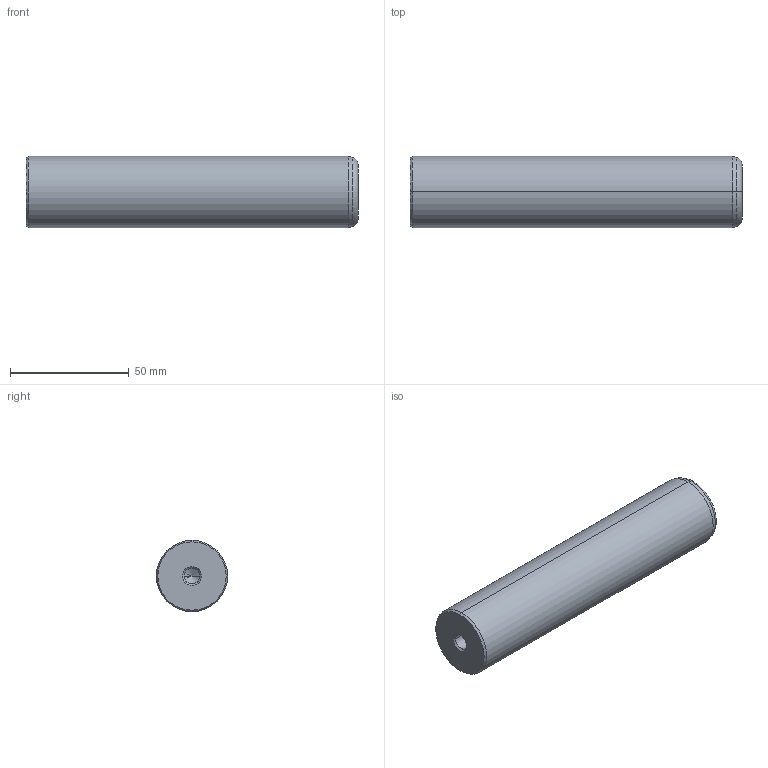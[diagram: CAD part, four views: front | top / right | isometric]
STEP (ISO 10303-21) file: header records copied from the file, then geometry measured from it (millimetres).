
FILE_DESCRIPTION(('CATIA V5 STEP Exchange'),'2;1');
FILE_NAME('C:\Users\Utente\Desktop\IO LAVORO\3D X SITO CF\X SITO\720\720-30x140.stp','2021-01-01T12:34:11+00:00',('none'),('none'),'CATIA Version 5 Release 20 GA (IN-10)','CATIA V5 STEP AP203','none');
FILE_SCHEMA(('CONFIG_CONTROL_DESIGN'));
Length unit declared in the file: millimetre
Products named in the file (1): 720-30x140
Bounding box: 140 x 30 x 30 mm (x, y, z)
Volume: 96929.3 mm3; surface area: 15405.4 mm2
Topology: 1 solids, 1 shells, 22 faces, 62 edges, 40 vertices
Faces by surface type: cone 12, cylinder 6, plane 2, torus 2
Entity records: 806 total; most frequent: CARTESIAN_POINT 229, ORIENTED_EDGE 116, DIRECTION 93, EDGE_CURVE 58, AXIS2_PLACEMENT_3D 54, VERTEX_POINT 40, CIRCLE 31, EDGE_LOOP 24
